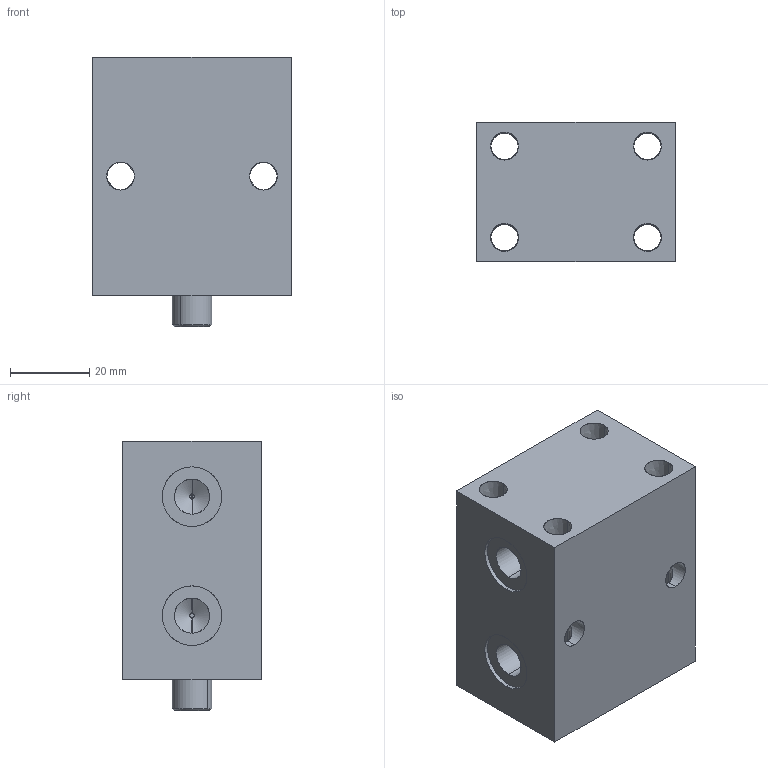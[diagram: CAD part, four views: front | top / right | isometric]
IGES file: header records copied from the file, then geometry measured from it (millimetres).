
Start section: SolidWorks IGES file using analytic representation for surfaces
Global section: file name: D:\karuppas\Clasp\3D model\Block cylinder B01C-Female thread\B01C-001F\Block cylinder B01C-001F.IGS; native system: SolidWorks 2017; preprocessor: SolidWorks 2017; author: pc; date: 220709.235258; units: millimetre
Bounding box: 50 x 35 x 68 mm (x, y, z)
Surface area: 23822 mm2 (no closed solid volume)
Topology: 0 solids, 0 shells, 341 faces, 5312 edges, 5310 vertices
Faces by surface type: bspline 289, revolution 52
